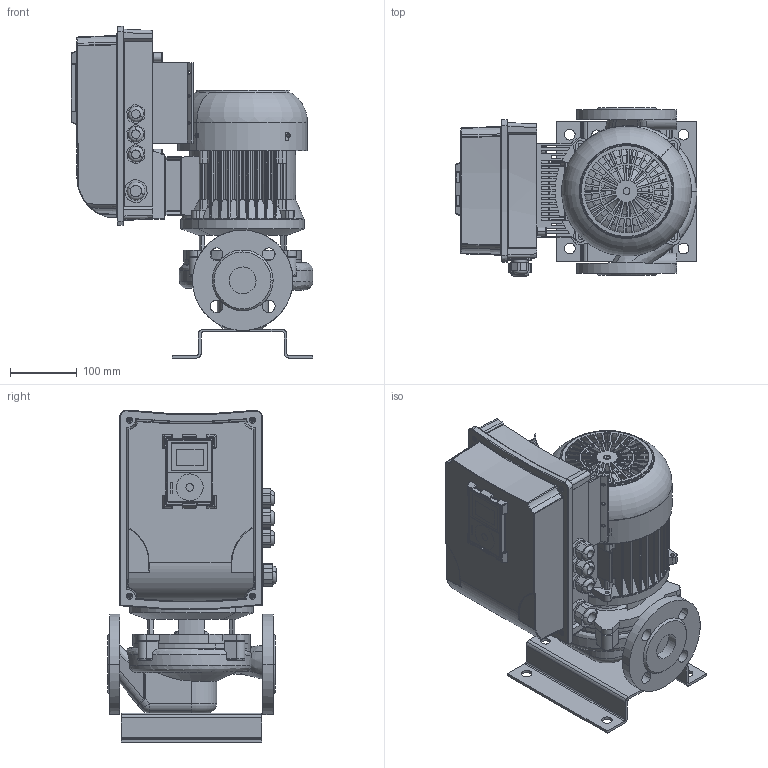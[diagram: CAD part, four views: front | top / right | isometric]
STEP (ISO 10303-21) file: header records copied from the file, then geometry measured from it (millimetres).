
FILE_DESCRIPTION(('STEP AP214'),'1');
FILE_NAME('export.stp','2018-06-04T08:02:23',(' '),(' '),'Spatial InterOp 3D',' ',' ');
FILE_SCHEMA(('AUTOMOTIVE_DESIGN { 1 0 10303 214 1 1 1 1 }'));
Length unit declared in the file: millimetre
Products named in the file (25): KHSC100B2F19; G34046; G23619; G23630; G43699; DIN_EN_24017-M6x25; G23888; V_MKH100_VS; Vacon20CP_MS2; MS2_bottom_final; P101407; MS2_cover_final; Vacon_Display; CAD-3D-VACON-M100-Display.sldasm; Vacon_display_pla; Vacon_display_scr; DIN_966-M5x10; M20_tiivisteholkk; M25_tiivisteholkk; SOVITUSPALA; W_L40A4370_KHVS; V_EKN13OKN101; V_TLAEAP3233L40A; V_PPL40A; V_JALKA35973
Assembly tree (32 placements, depth 5):
  W_L40A4370_KHVS
    V_MKH100_VS
      KHSC100B2F19
        G34046
        G23619
        G23630
        G43699
        DIN_EN_24017-M6x25  x4
        G23888
      Vacon20CP_MS2
        MS2_bottom_final
        P101407
        MS2_cover_final
        Vacon_Display
          CAD-3D-VACON-M100-Display.sldasm
          Vacon_display_pla
          Vacon_display_scr
        DIN_966-M5x10  x4
        M20_tiivisteholkk  x3
        M25_tiivisteholkk
      SOVITUSPALA
    V_EKN13OKN101
    V_TLAEAP3233L40A
    V_PPL40A
    V_JALKA35973
Bounding box: 361.31 x 251.92 x 495.97 mm (x, y, z)
Volume: 4897798.3 mm3; surface area: 1746259.8 mm2
Topology: 26 solids, 1500 shells, 4610 faces, 16299 edges, 13170 vertices
Faces by surface type: bspline 1625, cylinder 1319, plane 1101, torus 282, cone 238, sphere 45
Entity records: 236488 total; most frequent: CARTESIAN_POINT 88516, ORIENTED_EDGE 23596, EDGE_CURVE 15623, DIRECTION 15572, VERTEX_POINT 12804, B_SPLINE_CURVE_WITH_KNOTS 7488, AXIS2_PLACEMENT_3D 6067, STYLED_ITEM 5327
